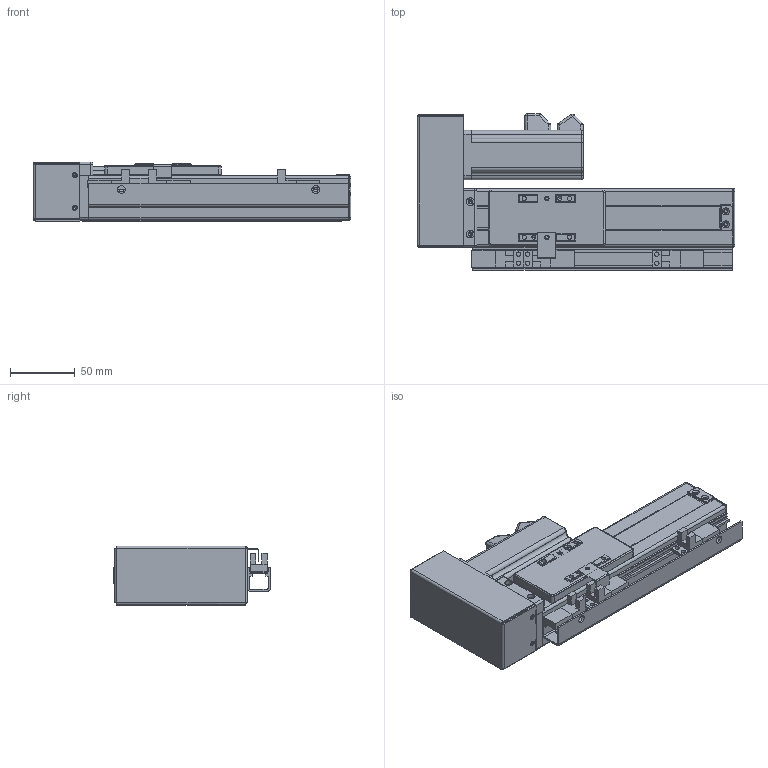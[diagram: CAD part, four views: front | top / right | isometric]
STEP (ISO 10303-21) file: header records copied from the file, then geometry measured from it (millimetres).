
FILE_DESCRIPTION (( 'STEP AP203' ), '1' );
FILE_NAME ('VT4-L12-C-S80-BR-P10-D4.STEP', '2015-10-26T03:41:40', ( '' ), ( '' ), 'SwSTEP 2.0', 'SolidWorks 2013', '' );
FILE_SCHEMA (( 'CONFIG_CONTROL_DESIGN' ));
Length unit declared in the file: millimetre
Products named in the file (17): T4-綴傷裔; T4-耜啣羲耀芞2_俴最80; T4-賑雄殤; T4-裔啣; T4-揤輸; T4-覜茼え; T6-癹弇羲壽羞_俴最80; EE-SX674-WR; SFKR0802佪裝TBI_俴最80; MGW12C-絳寢_俴最80; 侂狟100W MSMD012G1U; T4-BLR 100w萇儂假蚾啣_A6061; T4-BLRM 粣創釱; T4-BLRM ヶ傷揤輸_A6061; 詩湍; T4-BLR 萇儂欶; VT4-L12-C-S80-BR-P10-D4
Assembly tree (19 placements, depth 2):
  VT4-L12-C-S80-BR-P10-D4
    T4-綴傷裔
    T4-耜啣羲耀芞2_俴最80  x2
    T4-賑雄殤
    T4-裔啣
    T4-揤輸
    T4-覜茼え
    T6-癹弇羲壽羞_俴最80
    EE-SX674-WR  x3
    SFKR0802佪裝TBI_俴最80
    MGW12C-絳寢_俴最80
    侂狟100W MSMD012G1U
    T4-BLR 100w萇儂假蚾啣_A6061
    T4-BLRM 粣創釱
    T4-BLRM ヶ傷揤輸_A6061
    詩湍
    T4-BLR 萇儂欶
Bounding box: 245 x 121 x 46.25 mm (x, y, z)
Volume: 336968.3 mm3; surface area: 216089.5 mm2
Topology: 22 solids, 22 shells, 1207 faces, 3230 edges, 2041 vertices
Faces by surface type: plane 560, cylinder 532, cone 57, torus 30, sphere 20, bspline 8
Entity records: 33971 total; most frequent: CARTESIAN_POINT 6486, DIRECTION 5492, ORIENTED_EDGE 5236, EDGE_CURVE 2618, AXIS2_PLACEMENT_3D 1959, VERTEX_POINT 1675, VECTOR 1574, LINE 1574
